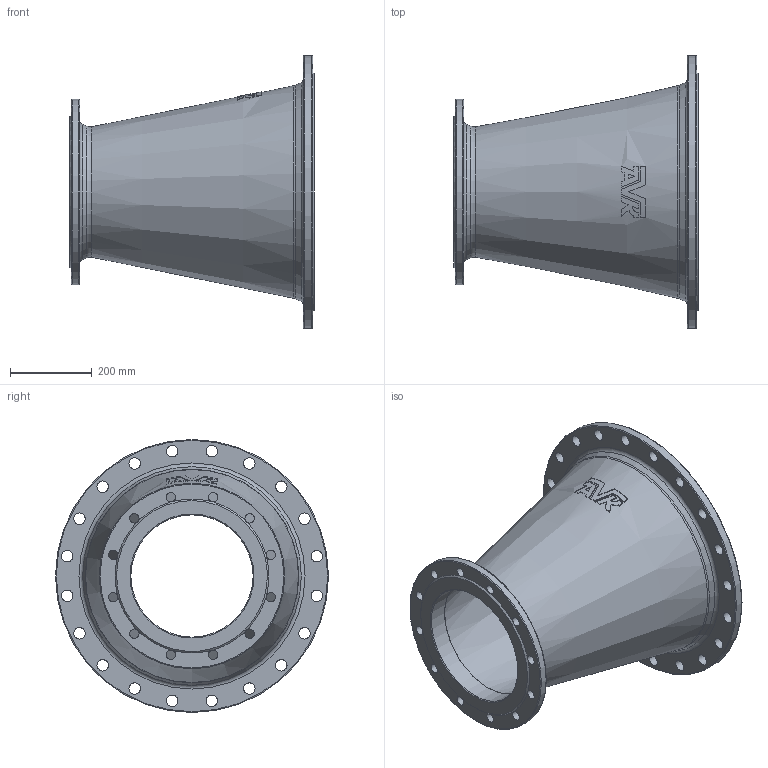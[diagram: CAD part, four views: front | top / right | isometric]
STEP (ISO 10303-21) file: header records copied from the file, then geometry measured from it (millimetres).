
FILE_DESCRIPTION (( 'STEP AP203' ), '1' );
FILE_NAME ('O_712_2210_DN500_DN300_0X_REV01.step', '2024-08-08T07:37:38', ( '' ), ( '' ), 'SwSTEP 2.0', 'SolidWorks 2022', '' );
FILE_SCHEMA (( 'CONFIG_CONTROL_DESIGN' ));
Length unit declared in the file: millimetre
Products named in the file (1): O_712_2210_DN500_DN300_0X_REV01
Bounding box: 600 x 670 x 670 mm (x, y, z)
Volume: 12892609.8 mm3; surface area: 2045658.5 mm2
Topology: 1 solids, 1 shells, 113 faces, 329 edges, 214 vertices
Faces by surface type: plane 53, cylinder 38, cone 12, torus 10
Full cylindrical faces by diameter (mm): 23 x12, 28 x20, 300 x1, 455 x1, 500 x1, 670 x1
Entity records: 3484 total; most frequent: CARTESIAN_POINT 727, DIRECTION 583, ORIENTED_EDGE 476, AXIS2_PLACEMENT_3D 273, EDGE_CURVE 238, EDGE_LOOP 229, VERTEX_POINT 177, CIRCLE 159
